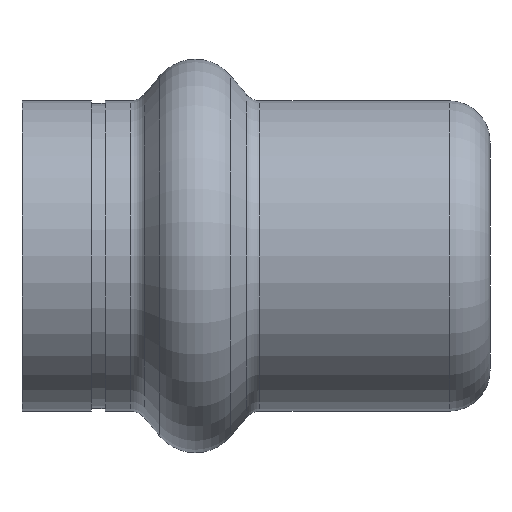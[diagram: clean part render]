
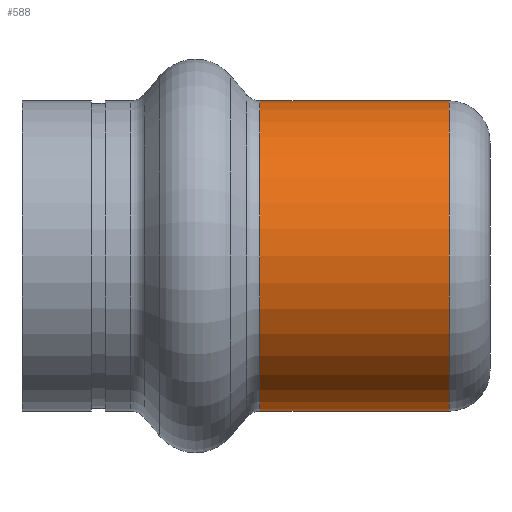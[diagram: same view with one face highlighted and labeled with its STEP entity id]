
A CAD part, front view. The second image highlights one B-rep face of the part: STEP entity #588.
In plain terms, the highlighted cylindrical face has radius 8.95 mm (diameter 17.9 mm), a partial arc.
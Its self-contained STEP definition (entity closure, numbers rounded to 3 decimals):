
#79 = CARTESIAN_POINT ( 'NONE',  ( 27.65, 0., -8.95 ) ) ;
#85 = VERTEX_POINT ( 'NONE', #1301 ) ;
#112 = CARTESIAN_POINT ( 'NONE',  ( -7.298, 0., -8.95 ) ) ;
#190 = DIRECTION ( 'NONE',  ( -1., 0., 0. ) ) ;
#265 = CARTESIAN_POINT ( 'NONE',  ( 16.728, 0., -8.95 ) ) ;
#282 = EDGE_CURVE ( 'NONE', #1306, #659, #1249, .T. ) ;
#320 = CYLINDRICAL_SURFACE ( 'NONE', #1278, 8.95 ) ;
#324 = LINE ( 'NONE', #927, #370 ) ;
#339 = FACE_OUTER_BOUND ( 'NONE', #966, .T. ) ;
#370 = VECTOR ( 'NONE', #1190, 1000. ) ;
#435 = VECTOR ( 'NONE', #190, 1000. ) ;
#588 = ADVANCED_FACE ( 'NONE', ( #339 ), #320, .T. ) ;
#599 = AXIS2_PLACEMENT_3D ( 'NONE', #737, #731, #724 ) ;
#608 = CARTESIAN_POINT ( 'NONE',  ( -7.298, 0., 0. ) ) ;
#659 = VERTEX_POINT ( 'NONE', #265 ) ;
#724 = DIRECTION ( 'NONE',  ( 0., 0., 1. ) ) ;
#731 = DIRECTION ( 'NONE',  ( -1., 0., 0. ) ) ;
#737 = CARTESIAN_POINT ( 'NONE',  ( 27.65, 0., 0. ) ) ;
#751 = DIRECTION ( 'NONE',  ( 0., 0., 1. ) ) ;
#759 = ORIENTED_EDGE ( 'NONE', *, *, #282, .F. ) ;
#782 = DIRECTION ( 'NONE',  ( -1., 0., 0. ) ) ;
#789 = ORIENTED_EDGE ( 'NONE', *, *, #1077, .T. ) ;
#828 = AXIS2_PLACEMENT_3D ( 'NONE', #1062, #1059, #1056 ) ;
#892 = VERTEX_POINT ( 'NONE', #1339 ) ;
#927 = CARTESIAN_POINT ( 'NONE',  ( -7.298, 0., 8.95 ) ) ;
#966 = EDGE_LOOP ( 'NONE', ( #759, #1239, #789, #1257 ) ) ;
#1020 = EDGE_CURVE ( 'NONE', #892, #659, #1398, .T. ) ;
#1056 = DIRECTION ( 'NONE',  ( 0., 0., -1. ) ) ;
#1059 = DIRECTION ( 'NONE',  ( 1., 0., 0. ) ) ;
#1062 = CARTESIAN_POINT ( 'NONE',  ( 16.728, 0., 0. ) ) ;
#1077 = EDGE_CURVE ( 'NONE', #85, #892, #324, .T. ) ;
#1099 = EDGE_CURVE ( 'NONE', #1306, #85, #1187, .T. ) ;
#1187 = CIRCLE ( 'NONE', #599, 8.95 ) ;
#1190 = DIRECTION ( 'NONE',  ( -1., 0., 0. ) ) ;
#1239 = ORIENTED_EDGE ( 'NONE', *, *, #1099, .T. ) ;
#1249 = LINE ( 'NONE', #112, #435 ) ;
#1257 = ORIENTED_EDGE ( 'NONE', *, *, #1020, .T. ) ;
#1278 = AXIS2_PLACEMENT_3D ( 'NONE', #608, #782, #751 ) ;
#1301 = CARTESIAN_POINT ( 'NONE',  ( 27.65, 0., 8.95 ) ) ;
#1306 = VERTEX_POINT ( 'NONE', #79 ) ;
#1339 = CARTESIAN_POINT ( 'NONE',  ( 16.728, 0., 8.95 ) ) ;
#1398 = CIRCLE ( 'NONE', #828, 8.95 ) ;
